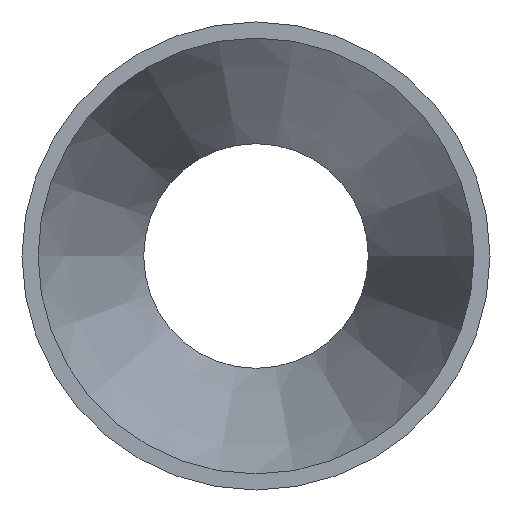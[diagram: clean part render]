
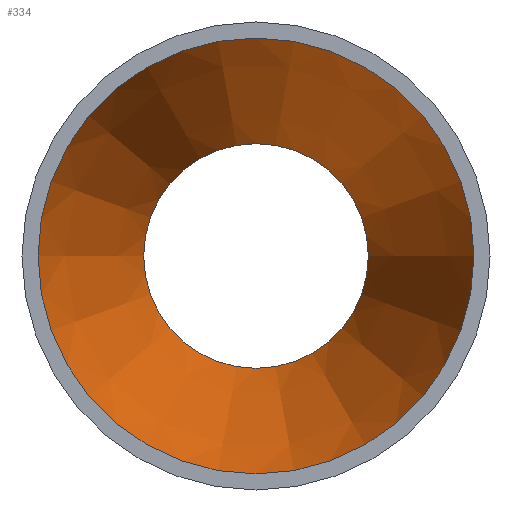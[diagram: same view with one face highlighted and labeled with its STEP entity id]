
A CAD part, left-side view. The second image highlights one B-rep face of the part: STEP entity #334.
In plain terms, the highlighted conical face has half-angle 17.669 degrees and reference radius 31.369 mm.
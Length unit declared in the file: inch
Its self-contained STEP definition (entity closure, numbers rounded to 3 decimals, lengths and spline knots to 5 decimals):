
#66=FACE_OUTER_BOUND('',#82,.T.);
#82=EDGE_LOOP('',(#235,#236,#237,#238,#239,#240));
#104=LINE('',#580,#114);
#114=VECTOR('',#447,1.235);
#127=CIRCLE('',#375,0.84);
#128=CIRCLE('',#376,1.63);
#129=CIRCLE('',#377,1.63);
#130=CIRCLE('',#378,0.84);
#159=VERTEX_POINT('',#576);
#160=VERTEX_POINT('',#577);
#161=VERTEX_POINT('',#579);
#162=VERTEX_POINT('',#581);
#192=EDGE_CURVE('',#159,#160,#127,.T.);
#193=EDGE_CURVE('',#160,#161,#104,.T.);
#194=EDGE_CURVE('',#162,#161,#128,.T.);
#195=EDGE_CURVE('',#161,#162,#129,.T.);
#196=EDGE_CURVE('',#160,#159,#130,.T.);
#235=ORIENTED_EDGE('',*,*,#192,.T.);
#236=ORIENTED_EDGE('',*,*,#193,.T.);
#237=ORIENTED_EDGE('',*,*,#194,.F.);
#238=ORIENTED_EDGE('',*,*,#195,.F.);
#239=ORIENTED_EDGE('',*,*,#193,.F.);
#240=ORIENTED_EDGE('',*,*,#196,.T.);
#314=CONICAL_SURFACE('',#374,1.235,0.308);
#334=ADVANCED_FACE('',(#66),#314,.F.);
#374=AXIS2_PLACEMENT_3D('',#575,#443,#444);
#375=AXIS2_PLACEMENT_3D('',#578,#445,#446);
#376=AXIS2_PLACEMENT_3D('',#582,#448,#449);
#377=AXIS2_PLACEMENT_3D('',#583,#450,#451);
#378=AXIS2_PLACEMENT_3D('',#584,#452,#453);
#443=DIRECTION('center_axis',(-1.,0.,0.));
#444=DIRECTION('ref_axis',(0.,1.,0.));
#445=DIRECTION('center_axis',(1.,0.,0.));
#446=DIRECTION('ref_axis',(0.,1.,0.));
#447=DIRECTION('',(-0.953,-0.304,0.));
#448=DIRECTION('center_axis',(1.,0.,0.));
#449=DIRECTION('ref_axis',(0.,1.,0.));
#450=DIRECTION('center_axis',(1.,0.,0.));
#451=DIRECTION('ref_axis',(0.,1.,0.));
#452=DIRECTION('center_axis',(1.,0.,0.));
#453=DIRECTION('ref_axis',(0.,1.,0.));
#575=CARTESIAN_POINT('Origin',(2.5,0.,0.));
#576=CARTESIAN_POINT('',(3.74,0.84,0.));
#577=CARTESIAN_POINT('',(3.74,-0.84,0.));
#578=CARTESIAN_POINT('Origin',(3.74,0.,0.));
#579=CARTESIAN_POINT('',(1.26,-1.63,0.));
#580=CARTESIAN_POINT('',(2.5,-1.235,0.));
#581=CARTESIAN_POINT('',(1.26,1.63,0.));
#582=CARTESIAN_POINT('Origin',(1.26,0.,0.));
#583=CARTESIAN_POINT('Origin',(1.26,0.,0.));
#584=CARTESIAN_POINT('Origin',(3.74,0.,0.));
